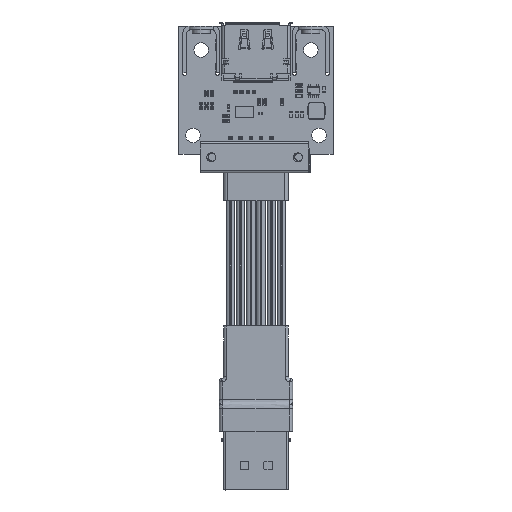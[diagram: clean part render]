
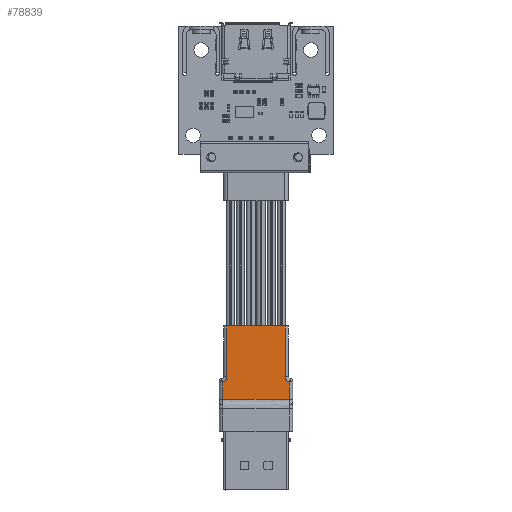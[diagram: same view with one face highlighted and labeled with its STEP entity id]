
A CAD part, top view. The second image highlights one B-rep face of the part: STEP entity #78839.
In plain terms, the highlighted planar face has unit normal (0, 0, 1) as drawn and (-1, 0, 0) by its records, which use the part's own axes.
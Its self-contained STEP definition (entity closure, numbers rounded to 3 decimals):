
#78595 = VERTEX_POINT('',#78596);
#78596 = CARTESIAN_POINT('',(0.,30.,-16.2));
#78603 = EDGE_CURVE('',#78595,#78604,#78606,.T.);
#78604 = VERTEX_POINT('',#78605);
#78605 = CARTESIAN_POINT('',(0.,30.,-1.8));
#78606 = LINE('',#78607,#78608);
#78607 = CARTESIAN_POINT('',(0.,30.,-18.));
#78608 = VECTOR('',#78609,1.);
#78609 = DIRECTION('',(0.,0.,1.));
#78839 = ADVANCED_FACE('',(#78840),#78898,.F.);
#78840 = FACE_BOUND('',#78841,.F.);
#78841 = EDGE_LOOP('',(#78842,#78850,#78859,#78867,#78874,#78882,#78891,
    #78897));
#78842 = ORIENTED_EDGE('',*,*,#78843,.F.);
#78843 = EDGE_CURVE('',#78844,#78604,#78846,.T.);
#78844 = VERTEX_POINT('',#78845);
#78845 = CARTESIAN_POINT('',(0.,17.5,-1.8));
#78846 = LINE('',#78847,#78848);
#78847 = CARTESIAN_POINT('',(0.,0.,-1.8));
#78848 = VECTOR('',#78849,1.);
#78849 = DIRECTION('',(0.,1.,-0.));
#78850 = ORIENTED_EDGE('',*,*,#78851,.F.);
#78851 = EDGE_CURVE('',#78852,#78844,#78854,.T.);
#78852 = VERTEX_POINT('',#78853);
#78853 = CARTESIAN_POINT('',(0.,16.235,-0.8));
#78854 = CIRCLE('',#78855,1.3);
#78855 = AXIS2_PLACEMENT_3D('',#78856,#78857,#78858);
#78856 = CARTESIAN_POINT('',(0.,17.5,-0.5));
#78857 = DIRECTION('',(1.,-0.,0.));
#78858 = DIRECTION('',(0.,0.,-1.));
#78859 = ORIENTED_EDGE('',*,*,#78860,.F.);
#78860 = EDGE_CURVE('',#78861,#78852,#78863,.T.);
#78861 = VERTEX_POINT('',#78862);
#78862 = CARTESIAN_POINT('',(0.,11.9,-0.8));
#78863 = LINE('',#78864,#78865);
#78864 = CARTESIAN_POINT('',(0.,16.5,-0.8));
#78865 = VECTOR('',#78866,1.);
#78866 = DIRECTION('',(0.,1.,-0.));
#78867 = ORIENTED_EDGE('',*,*,#78868,.F.);
#78868 = EDGE_CURVE('',#78869,#78861,#78871,.T.);
#78869 = VERTEX_POINT('',#78870);
#78870 = CARTESIAN_POINT('',(0.,11.9,-17.2));
#78871 = B_SPLINE_CURVE_WITH_KNOTS('',1,(#78872,#78873),.UNSPECIFIED.,
  .F.,.F.,(2,2),(0.,1.),.PIECEWISE_BEZIER_KNOTS.);
#78872 = CARTESIAN_POINT('',(0.,11.9,-18.));
#78873 = CARTESIAN_POINT('',(0.,11.9,0.));
#78874 = ORIENTED_EDGE('',*,*,#78875,.F.);
#78875 = EDGE_CURVE('',#78876,#78869,#78878,.T.);
#78876 = VERTEX_POINT('',#78877);
#78877 = CARTESIAN_POINT('',(0.,16.235,-17.2));
#78878 = LINE('',#78879,#78880);
#78879 = CARTESIAN_POINT('',(0.,0.,-17.2));
#78880 = VECTOR('',#78881,1.);
#78881 = DIRECTION('',(-0.,-1.,-0.));
#78882 = ORIENTED_EDGE('',*,*,#78883,.F.);
#78883 = EDGE_CURVE('',#78884,#78876,#78886,.T.);
#78884 = VERTEX_POINT('',#78885);
#78885 = CARTESIAN_POINT('',(0.,17.5,-16.2));
#78886 = CIRCLE('',#78887,1.3);
#78887 = AXIS2_PLACEMENT_3D('',#78888,#78889,#78890);
#78888 = CARTESIAN_POINT('',(0.,17.5,-17.5));
#78889 = DIRECTION('',(1.,-0.,0.));
#78890 = DIRECTION('',(0.,0.,-1.));
#78891 = ORIENTED_EDGE('',*,*,#78892,.F.);
#78892 = EDGE_CURVE('',#78595,#78884,#78893,.T.);
#78893 = LINE('',#78894,#78895);
#78894 = CARTESIAN_POINT('',(0.,17.5,-16.2));
#78895 = VECTOR('',#78896,1.);
#78896 = DIRECTION('',(-0.,-1.,0.));
#78897 = ORIENTED_EDGE('',*,*,#78603,.T.);
#78898 = PLANE('',#78899);
#78899 = AXIS2_PLACEMENT_3D('',#78900,#78901,#78902);
#78900 = CARTESIAN_POINT('',(0.,0.,-18.));
#78901 = DIRECTION('',(1.,-0.,0.));
#78902 = DIRECTION('',(0.,0.,-1.));
